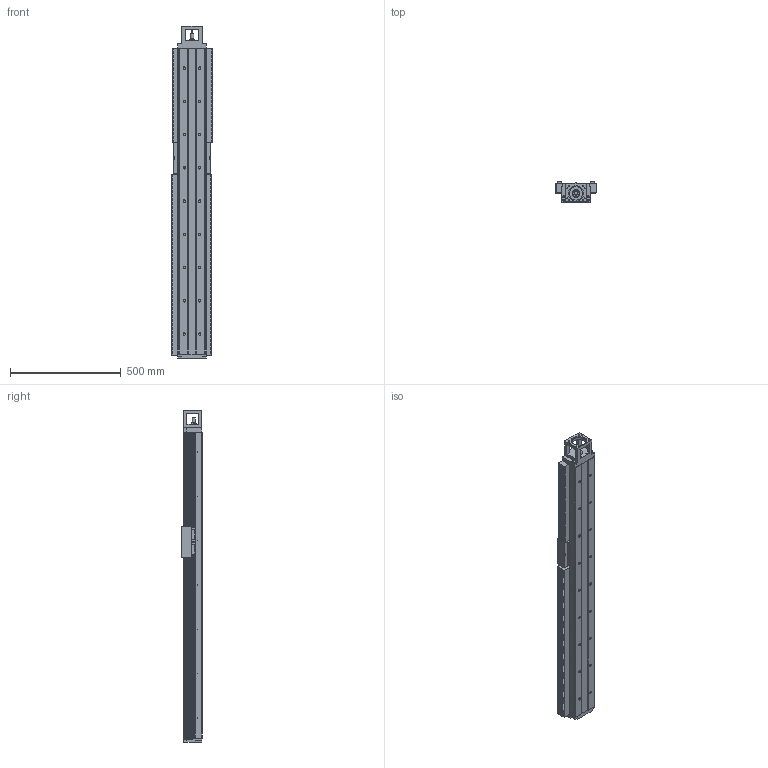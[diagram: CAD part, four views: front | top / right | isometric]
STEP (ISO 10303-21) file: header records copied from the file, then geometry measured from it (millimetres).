
FILE_DESCRIPTION(/* description */ (''),/* implementation_level */ '2;1');
FILE_NAME(/* name */ 'TKK130-1380A1FB_stp.stp',/* time_stamp */ '2017-08-18T10:34:07+08:00',/* author */ (''),/* organization */ (''),/* preprocessor_version */ 'ST-DEVELOPER v15',/* originating_system */ 'SIEMENS PLM Software NX 8.5',/* authorisation */ '');
FILE_SCHEMA (('AUTOMOTIVE_DESIGN { 1 0 10303 214 3 1 1 1 }'));
Products named in the file (3): 022; 011; TKK130-1380A1FB_stp
Assembly tree (2 placements, depth 2):
  TKK130-1380A1FB_stp
    011
    022
Bounding box: 184 x 92 x 1498 mm (x, y, z)
Volume: 15045048.2 mm3; surface area: 1768924.5 mm2
Topology: 5 solids, 49 shells, 2992 faces, 7242 edges, 4367 vertices
Faces by surface type: plane 2487, cylinder 336, cone 129, extrusion 33, bspline 6, torus 1
Full cylindrical faces by diameter (mm): 2.1 x14, 2.5 x8, 3.3 x60, 4.5 x20, 5 x23, 6.6 x10, 6.8 x12, 7 x2, 8 x16, 8.5 x4, 9 x8, 11 x26, 12 x4, 15 x1, 16.3 x1, 17 x20, 17.5 x4, 25 x1, 35 x2, 40 x3, 60.03 x1, 70.03 x1
Entity records: 83314 total; most frequent: CARTESIAN_POINT 15598, ORIENTED_EDGE 13296, DIRECTION 13190, EDGE_CURVE 6648, VECTOR 5806, LINE 5773, VERTEX_POINT 4248, AXIS2_PLACEMENT_3D 3692
